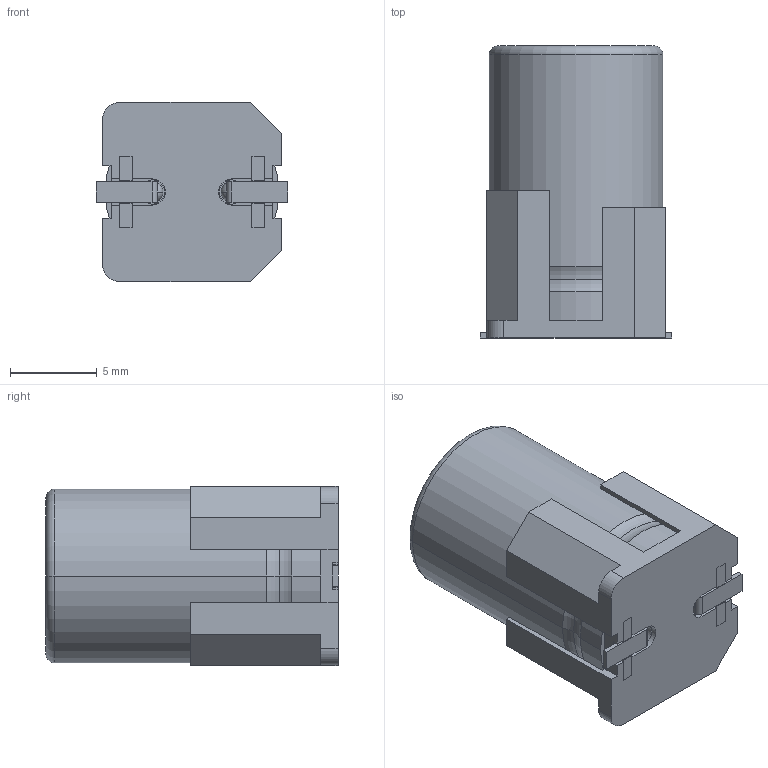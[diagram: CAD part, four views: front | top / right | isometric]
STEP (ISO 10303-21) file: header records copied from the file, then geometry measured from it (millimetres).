
FILE_DESCRIPTION (( 'STEP AP214' ), '1' );
FILE_NAME ('懴怳昳兂10 SIZE CODE G16.stp', '2018-07-13T01:15:16', ( '' ), ( '' ), 'SwSTEP 2.0', 'SolidWorks 2015', '' );
FILE_SCHEMA (( 'AUTOMOTIVE_DESIGN' ));
Length unit declared in the file: millimetre
Products named in the file (5): SIZE CODE G16-004; SIZE CODE G16-002; SIZE CODE G16-003; 懴怳昳兂10 SIZE CODE G16; SIZE CODE G16-001
Assembly tree (6 placements, depth 2):
  懴怳昳兂10 SIZE CODE G16
    SIZE CODE G16-001
    SIZE CODE G16-002
    SIZE CODE G16-003  x2
    SIZE CODE G16-004  x2
Bounding box: 11 x 16.8 x 10.3 mm (x, y, z)
Volume: 1447.2 mm3; surface area: 1265.6 mm2
Topology: 6 solids, 6 shells, 153 faces, 396 edges, 256 vertices
Faces by surface type: plane 117, cylinder 22, sphere 8, torus 6
Entity records: 3906 total; most frequent: CARTESIAN_POINT 652, DIRECTION 635, ORIENTED_EDGE 634, EDGE_CURVE 317, LINE 257, VECTOR 257, VERTEX_POINT 206, AXIS2_PLACEMENT_3D 189
